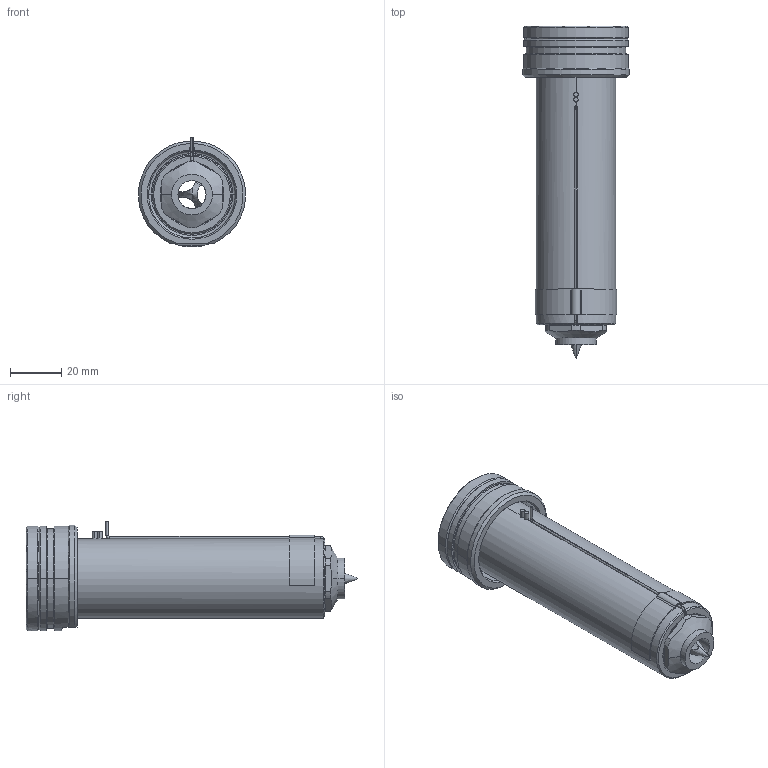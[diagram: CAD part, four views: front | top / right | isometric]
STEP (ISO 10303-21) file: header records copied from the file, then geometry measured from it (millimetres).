
FILE_DESCRIPTION((''),'2;1');
FILE_NAME('EO12_PG-BL_WR_110_SW','2024-02-19T11:14:42',('sundharh'),(''),'CREO PARAMETRIC BY PTC INC, 2023154','CREO PARAMETRIC BY PTC INC, 2023154','');
FILE_SCHEMA(('CONFIG_CONTROL_DESIGN'));
Length unit declared in the file: millimetre
Products named in the file (1): EO12_PG-BL_WR_110_SW
Bounding box: 41.85 x 130 x 43 mm (x, y, z)
Volume: 87069.1 mm3; surface area: 25282.3 mm2
Topology: 2 solids, 3 shells, 213 faces, 571 edges, 353 vertices
Faces by surface type: cylinder 80, plane 60, cone 41, torus 27, bspline 3, sphere 2
Entity records: 7771 total; most frequent: CARTESIAN_POINT 2309, DIRECTION 1201, ORIENTED_EDGE 1138, EDGE_CURVE 569, AXIS2_PLACEMENT_3D 505, VERTEX_POINT 353, CIRCLE 295, EDGE_LOOP 230
